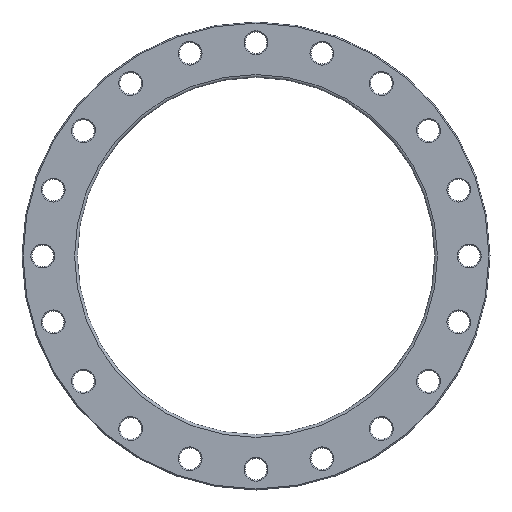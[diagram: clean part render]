
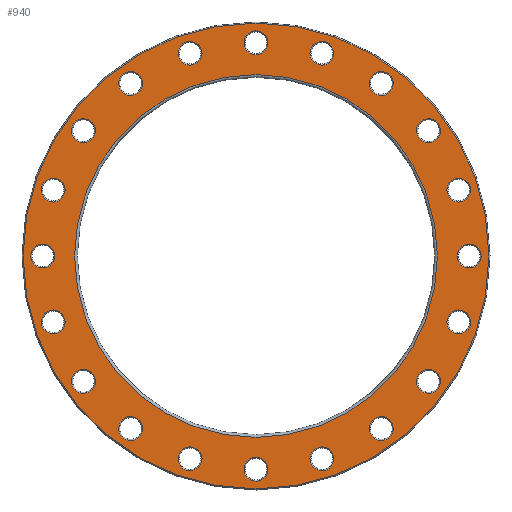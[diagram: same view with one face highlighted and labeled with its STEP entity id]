
A CAD part, front view. The second image highlights one B-rep face of the part: STEP entity #940.
In plain terms, the highlighted planar face has unit normal (0, -1, 0).
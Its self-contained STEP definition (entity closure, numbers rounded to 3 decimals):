
#23=PLANE('',#1104);
#206=ORIENTED_EDGE('',*,*,#325,.T.);
#207=ORIENTED_EDGE('',*,*,#326,.T.);
#208=ORIENTED_EDGE('',*,*,#244,.T.);
#209=ORIENTED_EDGE('',*,*,#248,.T.);
#210=ORIENTED_EDGE('',*,*,#252,.T.);
#211=ORIENTED_EDGE('',*,*,#256,.T.);
#212=ORIENTED_EDGE('',*,*,#260,.T.);
#213=ORIENTED_EDGE('',*,*,#264,.T.);
#214=ORIENTED_EDGE('',*,*,#268,.T.);
#215=ORIENTED_EDGE('',*,*,#272,.T.);
#216=ORIENTED_EDGE('',*,*,#276,.T.);
#217=ORIENTED_EDGE('',*,*,#280,.T.);
#218=ORIENTED_EDGE('',*,*,#284,.T.);
#219=ORIENTED_EDGE('',*,*,#288,.T.);
#220=ORIENTED_EDGE('',*,*,#292,.T.);
#221=ORIENTED_EDGE('',*,*,#296,.T.);
#222=ORIENTED_EDGE('',*,*,#300,.T.);
#223=ORIENTED_EDGE('',*,*,#304,.T.);
#224=ORIENTED_EDGE('',*,*,#308,.T.);
#225=ORIENTED_EDGE('',*,*,#312,.T.);
#226=ORIENTED_EDGE('',*,*,#316,.T.);
#227=ORIENTED_EDGE('',*,*,#327,.T.);
#244=EDGE_CURVE('',#332,#332,#420,.T.);
#248=EDGE_CURVE('',#336,#336,#424,.T.);
#252=EDGE_CURVE('',#340,#340,#428,.T.);
#256=EDGE_CURVE('',#344,#344,#432,.T.);
#260=EDGE_CURVE('',#348,#348,#436,.T.);
#264=EDGE_CURVE('',#352,#352,#440,.T.);
#268=EDGE_CURVE('',#356,#356,#444,.T.);
#272=EDGE_CURVE('',#360,#360,#448,.T.);
#276=EDGE_CURVE('',#364,#364,#452,.T.);
#280=EDGE_CURVE('',#368,#368,#456,.T.);
#284=EDGE_CURVE('',#372,#372,#460,.T.);
#288=EDGE_CURVE('',#376,#376,#464,.T.);
#292=EDGE_CURVE('',#380,#380,#468,.T.);
#296=EDGE_CURVE('',#384,#384,#472,.T.);
#300=EDGE_CURVE('',#388,#388,#476,.T.);
#304=EDGE_CURVE('',#392,#392,#480,.T.);
#308=EDGE_CURVE('',#396,#396,#484,.T.);
#312=EDGE_CURVE('',#400,#400,#488,.T.);
#316=EDGE_CURVE('',#404,#404,#492,.T.);
#325=EDGE_CURVE('',#413,#413,#501,.F.);
#326=EDGE_CURVE('',#414,#414,#502,.T.);
#327=EDGE_CURVE('',#415,#415,#503,.T.);
#332=VERTEX_POINT('',#1439);
#336=VERTEX_POINT('',#1450);
#340=VERTEX_POINT('',#1461);
#344=VERTEX_POINT('',#1472);
#348=VERTEX_POINT('',#1483);
#352=VERTEX_POINT('',#1494);
#356=VERTEX_POINT('',#1505);
#360=VERTEX_POINT('',#1516);
#364=VERTEX_POINT('',#1527);
#368=VERTEX_POINT('',#1538);
#372=VERTEX_POINT('',#1549);
#376=VERTEX_POINT('',#1560);
#380=VERTEX_POINT('',#1571);
#384=VERTEX_POINT('',#1582);
#388=VERTEX_POINT('',#1593);
#392=VERTEX_POINT('',#1604);
#396=VERTEX_POINT('',#1615);
#400=VERTEX_POINT('',#1626);
#404=VERTEX_POINT('',#1637);
#413=VERTEX_POINT('',#1660);
#414=VERTEX_POINT('',#1662);
#415=VERTEX_POINT('',#1664);
#420=CIRCLE('',#965,21.5);
#424=CIRCLE('',#972,21.5);
#428=CIRCLE('',#979,21.5);
#432=CIRCLE('',#986,21.5);
#436=CIRCLE('',#993,21.5);
#440=CIRCLE('',#1000,21.5);
#444=CIRCLE('',#1007,21.5);
#448=CIRCLE('',#1014,21.5);
#452=CIRCLE('',#1021,21.5);
#456=CIRCLE('',#1028,21.5);
#460=CIRCLE('',#1035,21.5);
#464=CIRCLE('',#1042,21.5);
#468=CIRCLE('',#1049,21.5);
#472=CIRCLE('',#1056,21.5);
#476=CIRCLE('',#1063,21.5);
#480=CIRCLE('',#1070,21.5);
#484=CIRCLE('',#1077,21.5);
#488=CIRCLE('',#1084,21.5);
#492=CIRCLE('',#1091,21.5);
#501=CIRCLE('',#1105,420.5);
#502=CIRCLE('',#1106,327.5);
#503=CIRCLE('',#1107,21.5);
#646=EDGE_LOOP('',(#206));
#647=EDGE_LOOP('',(#207));
#648=EDGE_LOOP('',(#208));
#649=EDGE_LOOP('',(#209));
#650=EDGE_LOOP('',(#210));
#651=EDGE_LOOP('',(#211));
#652=EDGE_LOOP('',(#212));
#653=EDGE_LOOP('',(#213));
#654=EDGE_LOOP('',(#214));
#655=EDGE_LOOP('',(#215));
#656=EDGE_LOOP('',(#216));
#657=EDGE_LOOP('',(#217));
#658=EDGE_LOOP('',(#218));
#659=EDGE_LOOP('',(#219));
#660=EDGE_LOOP('',(#220));
#661=EDGE_LOOP('',(#221));
#662=EDGE_LOOP('',(#222));
#663=EDGE_LOOP('',(#223));
#664=EDGE_LOOP('',(#224));
#665=EDGE_LOOP('',(#225));
#666=EDGE_LOOP('',(#226));
#667=EDGE_LOOP('',(#227));
#822=FACE_BOUND('',#646,.T.);
#823=FACE_BOUND('',#647,.T.);
#824=FACE_BOUND('',#648,.T.);
#825=FACE_BOUND('',#649,.T.);
#826=FACE_BOUND('',#650,.T.);
#827=FACE_BOUND('',#651,.T.);
#828=FACE_BOUND('',#652,.T.);
#829=FACE_BOUND('',#653,.T.);
#830=FACE_BOUND('',#654,.T.);
#831=FACE_BOUND('',#655,.T.);
#832=FACE_BOUND('',#656,.T.);
#833=FACE_BOUND('',#657,.T.);
#834=FACE_BOUND('',#658,.T.);
#835=FACE_BOUND('',#659,.T.);
#836=FACE_BOUND('',#660,.T.);
#837=FACE_BOUND('',#661,.T.);
#838=FACE_BOUND('',#662,.T.);
#839=FACE_BOUND('',#663,.T.);
#840=FACE_BOUND('',#664,.T.);
#841=FACE_BOUND('',#665,.T.);
#842=FACE_BOUND('',#666,.T.);
#843=FACE_BOUND('',#667,.T.);
#940=ADVANCED_FACE('',(#822,#823,#824,#825,#826,#827,#828,#829,#830,#831,
#832,#833,#834,#835,#836,#837,#838,#839,#840,#841,#842,#843),#23,.F.);
#965=AXIS2_PLACEMENT_3D('',#1438,#1127,#1128);
#972=AXIS2_PLACEMENT_3D('',#1449,#1141,#1142);
#979=AXIS2_PLACEMENT_3D('',#1460,#1155,#1156);
#986=AXIS2_PLACEMENT_3D('',#1471,#1169,#1170);
#993=AXIS2_PLACEMENT_3D('',#1482,#1183,#1184);
#1000=AXIS2_PLACEMENT_3D('',#1493,#1197,#1198);
#1007=AXIS2_PLACEMENT_3D('',#1504,#1211,#1212);
#1014=AXIS2_PLACEMENT_3D('',#1515,#1225,#1226);
#1021=AXIS2_PLACEMENT_3D('',#1526,#1239,#1240);
#1028=AXIS2_PLACEMENT_3D('',#1537,#1253,#1254);
#1035=AXIS2_PLACEMENT_3D('',#1548,#1267,#1268);
#1042=AXIS2_PLACEMENT_3D('',#1559,#1281,#1282);
#1049=AXIS2_PLACEMENT_3D('',#1570,#1295,#1296);
#1056=AXIS2_PLACEMENT_3D('',#1581,#1309,#1310);
#1063=AXIS2_PLACEMENT_3D('',#1592,#1323,#1324);
#1070=AXIS2_PLACEMENT_3D('',#1603,#1337,#1338);
#1077=AXIS2_PLACEMENT_3D('',#1614,#1351,#1352);
#1084=AXIS2_PLACEMENT_3D('',#1625,#1365,#1366);
#1091=AXIS2_PLACEMENT_3D('',#1636,#1379,#1380);
#1104=AXIS2_PLACEMENT_3D('',#1658,#1405,#1406);
#1105=AXIS2_PLACEMENT_3D('',#1659,#1407,#1408);
#1106=AXIS2_PLACEMENT_3D('',#1661,#1409,#1410);
#1107=AXIS2_PLACEMENT_3D('',#1663,#1411,#1412);
#1127=DIRECTION('',(0.,1.,0.));
#1128=DIRECTION('',(0.951,0.,0.309));
#1141=DIRECTION('',(0.,1.,0.));
#1142=DIRECTION('',(0.809,0.,0.588));
#1155=DIRECTION('',(0.,1.,0.));
#1156=DIRECTION('',(0.588,0.,0.809));
#1169=DIRECTION('',(0.,1.,0.));
#1170=DIRECTION('',(0.309,0.,0.951));
#1183=DIRECTION('',(0.,1.,0.));
#1184=DIRECTION('',(0.,0.,1.));
#1197=DIRECTION('',(0.,1.,0.));
#1198=DIRECTION('',(-0.309,0.,0.951));
#1211=DIRECTION('',(0.,1.,0.));
#1212=DIRECTION('',(-0.588,0.,0.809));
#1225=DIRECTION('',(0.,1.,0.));
#1226=DIRECTION('',(-0.809,0.,0.588));
#1239=DIRECTION('',(0.,1.,0.));
#1240=DIRECTION('',(-0.951,0.,0.309));
#1253=DIRECTION('',(0.,1.,0.));
#1254=DIRECTION('',(-1.,0.,0.));
#1267=DIRECTION('',(0.,1.,0.));
#1268=DIRECTION('',(-0.951,0.,-0.309));
#1281=DIRECTION('',(0.,1.,0.));
#1282=DIRECTION('',(-0.809,0.,-0.588));
#1295=DIRECTION('',(0.,1.,0.));
#1296=DIRECTION('',(-0.588,0.,-0.809));
#1309=DIRECTION('',(0.,1.,0.));
#1310=DIRECTION('',(-0.309,0.,-0.951));
#1323=DIRECTION('',(0.,1.,0.));
#1324=DIRECTION('',(0.,0.,-1.));
#1337=DIRECTION('',(0.,1.,0.));
#1338=DIRECTION('',(0.309,0.,-0.951));
#1351=DIRECTION('',(0.,1.,0.));
#1352=DIRECTION('',(0.588,0.,-0.809));
#1365=DIRECTION('',(0.,1.,0.));
#1366=DIRECTION('',(0.809,0.,-0.588));
#1379=DIRECTION('',(0.,1.,0.));
#1380=DIRECTION('',(0.951,0.,-0.309));
#1405=DIRECTION('',(0.,1.,0.));
#1406=DIRECTION('',(0.,0.,1.));
#1407=DIRECTION('',(0.,1.,0.));
#1408=DIRECTION('',(0.,0.,1.));
#1409=DIRECTION('',(0.,1.,0.));
#1410=DIRECTION('',(0.,0.,1.));
#1411=DIRECTION('',(0.,1.,0.));
#1412=DIRECTION('',(1.,0.,0.));
#1438=CARTESIAN_POINT('',(-118.972,0.,366.157));
#1439=CARTESIAN_POINT('',(-98.524,0.,372.801));
#1449=CARTESIAN_POINT('',(-226.297,0.,311.472));
#1450=CARTESIAN_POINT('',(-208.903,0.,324.109));
#1460=CARTESIAN_POINT('',(-311.472,0.,226.297));
#1461=CARTESIAN_POINT('',(-298.834,0.,243.691));
#1471=CARTESIAN_POINT('',(-366.157,0.,118.972));
#1472=CARTESIAN_POINT('',(-359.513,0.,139.419));
#1482=CARTESIAN_POINT('',(-385.,0.,0.));
#1483=CARTESIAN_POINT('',(-385.,0.,21.5));
#1493=CARTESIAN_POINT('',(-366.157,0.,-118.972));
#1494=CARTESIAN_POINT('',(-372.801,0.,-98.524));
#1504=CARTESIAN_POINT('',(-311.472,0.,-226.297));
#1505=CARTESIAN_POINT('',(-324.109,0.,-208.903));
#1515=CARTESIAN_POINT('',(-226.297,0.,-311.472));
#1516=CARTESIAN_POINT('',(-243.691,0.,-298.834));
#1526=CARTESIAN_POINT('',(-118.972,0.,-366.157));
#1527=CARTESIAN_POINT('',(-139.419,0.,-359.513));
#1537=CARTESIAN_POINT('',(0.,0.,-385.));
#1538=CARTESIAN_POINT('',(-21.5,0.,-385.));
#1548=CARTESIAN_POINT('',(118.972,0.,-366.157));
#1549=CARTESIAN_POINT('',(98.524,0.,-372.801));
#1559=CARTESIAN_POINT('',(226.297,0.,-311.472));
#1560=CARTESIAN_POINT('',(208.903,0.,-324.109));
#1570=CARTESIAN_POINT('',(311.472,0.,-226.297));
#1571=CARTESIAN_POINT('',(298.834,0.,-243.691));
#1581=CARTESIAN_POINT('',(366.157,0.,-118.972));
#1582=CARTESIAN_POINT('',(359.513,0.,-139.419));
#1592=CARTESIAN_POINT('',(385.,0.,0.));
#1593=CARTESIAN_POINT('',(385.,0.,-21.5));
#1603=CARTESIAN_POINT('',(366.157,0.,118.972));
#1604=CARTESIAN_POINT('',(372.801,0.,98.524));
#1614=CARTESIAN_POINT('',(311.472,0.,226.297));
#1615=CARTESIAN_POINT('',(324.109,0.,208.903));
#1625=CARTESIAN_POINT('',(226.297,0.,311.472));
#1626=CARTESIAN_POINT('',(243.691,0.,298.834));
#1636=CARTESIAN_POINT('',(118.972,0.,366.157));
#1637=CARTESIAN_POINT('',(139.419,0.,359.513));
#1658=CARTESIAN_POINT('',(0.,0.,0.));
#1659=CARTESIAN_POINT('',(0.,0.,0.));
#1660=CARTESIAN_POINT('',(0.,0.,420.5));
#1661=CARTESIAN_POINT('',(0.,0.,0.));
#1662=CARTESIAN_POINT('',(0.,0.,327.5));
#1663=CARTESIAN_POINT('',(0.,0.,385.));
#1664=CARTESIAN_POINT('',(21.5,0.,385.));
